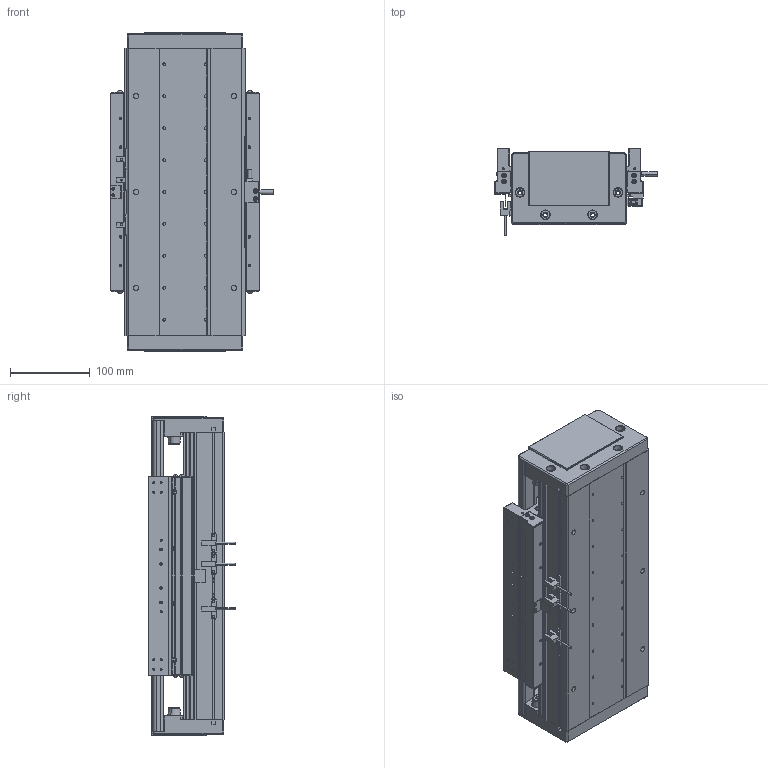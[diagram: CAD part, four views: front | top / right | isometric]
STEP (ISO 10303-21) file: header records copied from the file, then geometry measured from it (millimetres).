
FILE_DESCRIPTION (( 'STEP AP203' ), '1' );
FILE_NAME ('DA-C145-C3-T60-C010-0.2 眻盄萇儂.STEP', '2025-08-14T01:13:54', ( '' ), ( '' ), 'SwSTEP 2.0', 'SolidWorks 2019', '' );
FILE_SCHEMA (( 'CONFIG_CONTROL_DESIGN' ));
Length unit declared in the file: millimetre
Products named in the file (29): IU-CU145-L 菁釱絳寢; 葩璃 XD-U-02L 棠掑喜^DA-C145-C3-T-C010-0.2; 葩璃 鞠褒情蹟譫 M3^DA-C145-C3-T-C010-0.2; 复件 内六角平端紧定螺钉 GB.T77-2000 M5×10^CU145-W 滚珠滑台; DA-C145-C3-T60-C010-0.2 眻盄萇儂; 葩璃 DA145-C3-DP-B-00 菜えB^CU145-W 幗紩賑怢; CU145-W 幗紩賑怢; CU145-W-00 珨极趙賑雄怢啣; 复件 DA95-HK-GT-00 滑块钢轨^CU145-W-00 一体化滑动台板; 复件 DA145-C3-DK-00 挡块^CU145-W 滚珠滑台; 葩璃 DA95-GT-T-00^IU-CU145-L 菁釱絳寢; 葩璃 DMA-010-0.2 黍杅芛^DA-C145-C3-T-C010-0.2; 葩璃 DA145-C3-DP-A-00 菜えA^CU145-W 幗紩賑怢; 葩璃 CKMA01-W060-TRL^DA-C145-C3-T-C010-0.2; 复件 半圆头内六角螺钉 M3×6^CU145-W 滚珠滑台; 葩璃 DA145-DG-H-N-00 傷裔^DA-C145-C3-T-C010-0.2; 复件 DA145-C3-YB-A-00 压板A^CU145-W 滚珠滑台; TAY01-M8; 葩璃 DA145-T-003-00 裔啣^DA-C145-C3-T-C010-0.2; 复件 DA145-GYP-00 光电感应片^DA-C145-C3-T-C010-0.2; 葩璃 PM-T45^DA-C145-C3-T-C010-0.2; IU-CU145-L-00 菁釱(L360); 复件 DA95-DB-00  挡板^CU145-W 滚珠滑台; 葩璃 CKM03-W060-C1C2-TP-0.2^DA-C145-C3-T-C010-0.2; 66245-CU145-HT-W-00 賑雄怢啣(3D芞祧)(00); 复件 DA145-C3-YB-B-00 压板B^CU145-W 滚珠滑台; 葩璃 DA95-HXJ-00 遣喳砎蝶^DA-C145-C3-T-C010-0.2; 复件 纯铜油杯 6x6mm^CU145-W 滚珠滑台; 复件 DA95-MFP-01 密封片^CU145-W 滚珠滑台
Assembly tree (98 placements, depth 4):
  DA-C145-C3-T60-C010-0.2 眻盄萇儂
    IU-CU145-L 菁釱絳寢
      IU-CU145-L-00 菁釱(L360)
      葩璃 DA95-GT-T-00^IU-CU145-L 菁釱絳寢  x4
    CU145-W 幗紩賑怢
      CU145-W-00 珨极趙賑雄怢啣
        66245-CU145-HT-W-00 賑雄怢啣(3D芞祧)(00)
        复件 DA95-HK-GT-00 滑块钢轨^CU145-W-00 一体化滑动台板  x8
      复件 DA95-MFP-01 密封片^CU145-W 滚珠滑台  x8
      复件 DA95-DB-00  挡板^CU145-W 滚珠滑台  x8
      复件 内六角平端紧定螺钉 GB.T77-2000 M5×10^CU145-W 滚珠滑台  x4
      复件 纯铜油杯 6x6mm^CU145-W 滚珠滑台  x4
      复件 半圆头内六角螺钉 M3×6^CU145-W 滚珠滑台  x16
      复件 DA145-C3-DK-00 挡块^CU145-W 滚珠滑台  x4
      葩璃 DA145-C3-DP-B-00 菜えB^CU145-W 幗紩賑怢  x2
      复件 DA145-C3-YB-B-00 压板B^CU145-W 滚珠滑台  x2
      葩璃 DA145-C3-DP-A-00 菜えA^CU145-W 幗紩賑怢  x3
      复件 DA145-C3-YB-A-00 压板A^CU145-W 滚珠滑台  x3
      TAY01-M8  x4
    葩璃 CKMA01-W060-TRL^DA-C145-C3-T-C010-0.2
    葩璃 PM-T45^DA-C145-C3-T-C010-0.2  x3
    葩璃 XD-U-02L 棠掑喜^DA-C145-C3-T-C010-0.2
    葩璃 DA145-DG-H-N-00 傷裔^DA-C145-C3-T-C010-0.2  x2
    葩璃 DA145-T-003-00 裔啣^DA-C145-C3-T-C010-0.2
    葩璃 DA95-HXJ-00 遣喳砎蝶^DA-C145-C3-T-C010-0.2  x4
    复件 DA145-GYP-00 光电感应片^DA-C145-C3-T-C010-0.2
    葩璃 DMA-010-0.2 黍杅芛^DA-C145-C3-T-C010-0.2
    葩璃 CKM03-W060-C1C2-TP-0.2^DA-C145-C3-T-C010-0.2
    葩璃 鞠褒情蹟譫 M3^DA-C145-C3-T-C010-0.2  x8
Bounding box: 203.5 x 108.45 x 400 mm (x, y, z)
Volume: 4035367.4 mm3; surface area: 1030318 mm2
Topology: 95 solids, 127 shells, 3691 faces, 9411 edges, 5752 vertices
Faces by surface type: plane 1563, cylinder 1412, cone 626, torus 86, sphere 4
Entity records: 74761 total; most frequent: CARTESIAN_POINT 15990, DIRECTION 11625, ORIENTED_EDGE 10820, EDGE_CURVE 5410, AXIS2_PLACEMENT_3D 4304, VERTEX_POINT 3441, LINE 3017, VECTOR 3017
